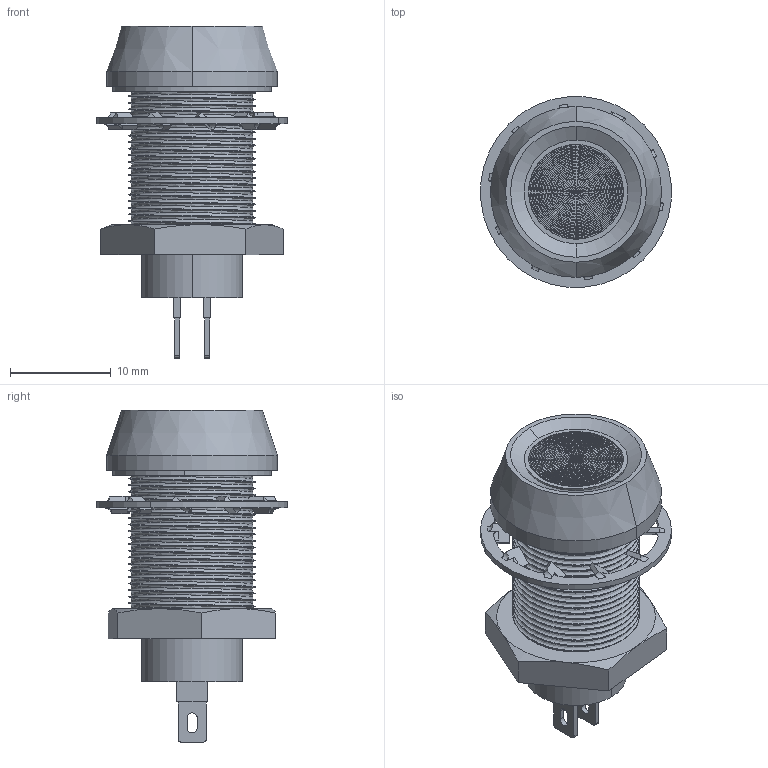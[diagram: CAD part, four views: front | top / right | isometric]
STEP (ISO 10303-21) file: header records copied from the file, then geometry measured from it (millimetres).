
FILE_DESCRIPTION (( 'STEP AP203' ), '1' );
FILE_NAME ('512 Series.STEP', '2016-08-04T11:24:12', ( '' ), ( '' ), 'SwSTEP 2.0', 'SolidWorks 2016', '' );
FILE_SCHEMA (( 'CONFIG_CONTROL_DESIGN' ));
Length unit declared in the file: millimetre
Products named in the file (9): com3324_PARALLEL; COM2035; 512 Series; Copy of Part5^512series; COM2227; Part1^512series; COM2226_Threaded; 10FDR; COM3579
Assembly tree (8 placements, depth 2):
  512 Series
    COM2226_Threaded
    COM2035
    COM2227
    COM3579
    10FDR
    com3324_PARALLEL
    Copy of Part5^512series
    Part1^512series
Bounding box: 18.94 x 18.94 x 33 mm (x, y, z)
Volume: 3091.8 mm3; surface area: 4278.1 mm2
Topology: 10 solids, 10 shells, 526 faces, 1263 edges, 791 vertices
Faces by surface type: cylinder 177, plane 176, torus 132, bspline 23, cone 18
Entity records: 23274 total; most frequent: CARTESIAN_POINT 10432, DIRECTION 2540, ORIENTED_EDGE 2526, EDGE_CURVE 1263, AXIS2_PLACEMENT_3D 1014, VERTEX_POINT 791, EDGE_LOOP 572, FACE_OUTER_BOUND 526
